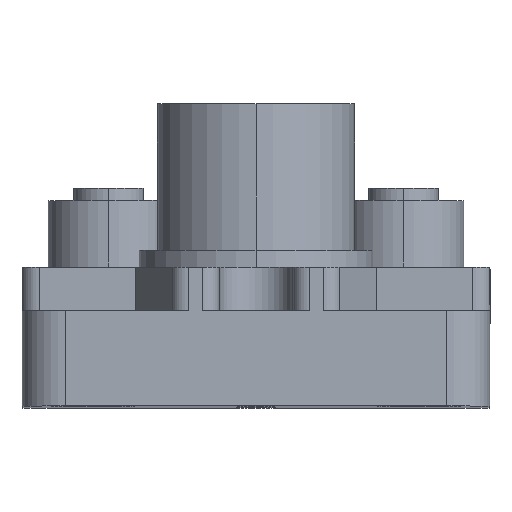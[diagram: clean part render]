
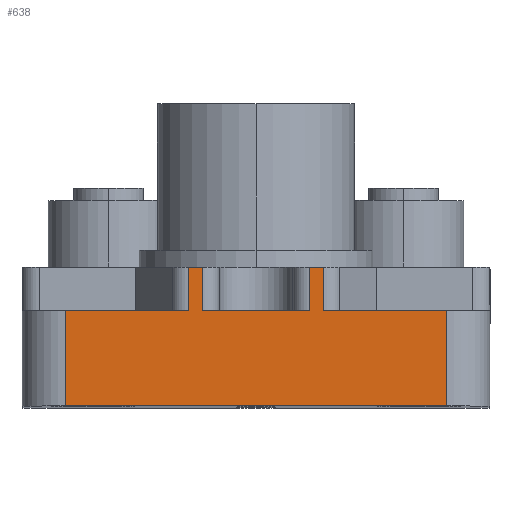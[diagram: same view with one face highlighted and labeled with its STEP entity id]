
A CAD part, top view. The second image highlights one B-rep face of the part: STEP entity #638.
In plain terms, the highlighted planar face has unit normal (0, 0, 1).
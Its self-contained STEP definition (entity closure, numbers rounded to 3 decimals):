
#63 = CARTESIAN_POINT ( 'NONE',  ( -27., -8., 76.25 ) ) ;
#353 = EDGE_CURVE ( 'NONE', #1783, #7075, #738, .T. ) ;
#490 = EDGE_LOOP ( 'NONE', ( #2377, #7534, #6629, #4829, #7357, #5057, #6020, #8266, #3265, #2564, #676, #3149 ) ) ;
#582 = CARTESIAN_POINT ( 'NONE',  ( 6.22, 8., 76.25 ) ) ;
#638 = ADVANCED_FACE ( 'NONE', ( #2258 ), #7860, .F. ) ;
#652 = DIRECTION ( 'NONE',  ( -1., 0., 0. ) ) ;
#676 = ORIENTED_EDGE ( 'NONE', *, *, #5689, .T. ) ;
#738 = LINE ( 'NONE', #5080, #7742 ) ;
#778 = EDGE_CURVE ( 'NONE', #5211, #3135, #7571, .T. ) ;
#796 = VERTEX_POINT ( 'NONE', #1071 ) ;
#967 = CARTESIAN_POINT ( 'NONE',  ( 22., -8., 76.25 ) ) ;
#996 = VECTOR ( 'NONE', #7120, 1000. ) ;
#1061 = DIRECTION ( 'NONE',  ( -1., 0., 0. ) ) ;
#1071 = CARTESIAN_POINT ( 'NONE',  ( 7.845, 3., 76.25 ) ) ;
#1098 = LINE ( 'NONE', #3257, #8092 ) ;
#1285 = VECTOR ( 'NONE', #8291, 1000. ) ;
#1557 = DIRECTION ( 'NONE',  ( 0., 0., -1. ) ) ;
#1594 = VECTOR ( 'NONE', #1061, 1000. ) ;
#1691 = DIRECTION ( 'NONE',  ( -1., 0., 0. ) ) ;
#1703 = CARTESIAN_POINT ( 'NONE',  ( 22., 8., 76.25 ) ) ;
#1783 = VERTEX_POINT ( 'NONE', #582 ) ;
#2035 = LINE ( 'NONE', #63, #8357 ) ;
#2255 = VERTEX_POINT ( 'NONE', #7716 ) ;
#2258 = FACE_OUTER_BOUND ( 'NONE', #490, .T. ) ;
#2377 = ORIENTED_EDGE ( 'NONE', *, *, #3880, .F. ) ;
#2514 = CARTESIAN_POINT ( 'NONE',  ( -27., 3., 76.25 ) ) ;
#2521 = DIRECTION ( 'NONE',  ( 0., 1., 0. ) ) ;
#2564 = ORIENTED_EDGE ( 'NONE', *, *, #6426, .T. ) ;
#2695 = CARTESIAN_POINT ( 'NONE',  ( -27., 8., 76.25 ) ) ;
#2758 = VERTEX_POINT ( 'NONE', #5083 ) ;
#2799 = DIRECTION ( 'NONE',  ( 0., -1., 0. ) ) ;
#3135 = VERTEX_POINT ( 'NONE', #8952 ) ;
#3149 = ORIENTED_EDGE ( 'NONE', *, *, #3205, .T. ) ;
#3171 = LINE ( 'NONE', #7998, #6007 ) ;
#3205 = EDGE_CURVE ( 'NONE', #796, #2758, #8264, .T. ) ;
#3257 = CARTESIAN_POINT ( 'NONE',  ( -22., 8., 76.25 ) ) ;
#3265 = ORIENTED_EDGE ( 'NONE', *, *, #6136, .T. ) ;
#3412 = EDGE_CURVE ( 'NONE', #5211, #8857, #4285, .T. ) ;
#3646 = VERTEX_POINT ( 'NONE', #967 ) ;
#3696 = VERTEX_POINT ( 'NONE', #3937 ) ;
#3880 = EDGE_CURVE ( 'NONE', #1783, #2758, #6194, .T. ) ;
#3927 = CARTESIAN_POINT ( 'NONE',  ( -22., -8., 76.25 ) ) ;
#3937 = CARTESIAN_POINT ( 'NONE',  ( 22., 3., 76.25 ) ) ;
#4062 = VERTEX_POINT ( 'NONE', #7311 ) ;
#4285 = LINE ( 'NONE', #4866, #6755 ) ;
#4388 = CARTESIAN_POINT ( 'NONE',  ( -27., 8., 76.25 ) ) ;
#4596 = DIRECTION ( 'NONE',  ( 0., -1., 0. ) ) ;
#4829 = ORIENTED_EDGE ( 'NONE', *, *, #5531, .T. ) ;
#4866 = CARTESIAN_POINT ( 'NONE',  ( -7.845, 3., 76.25 ) ) ;
#5035 = CARTESIAN_POINT ( 'NONE',  ( -6.22, 8., 76.25 ) ) ;
#5057 = ORIENTED_EDGE ( 'NONE', *, *, #3412, .T. ) ;
#5080 = CARTESIAN_POINT ( 'NONE',  ( 6.22, 8., 76.25 ) ) ;
#5083 = CARTESIAN_POINT ( 'NONE',  ( 7.845, 8., 76.25 ) ) ;
#5095 = CARTESIAN_POINT ( 'NONE',  ( -7.845, 3., 76.25 ) ) ;
#5185 = CARTESIAN_POINT ( 'NONE',  ( -7.845, 8., 76.25 ) ) ;
#5211 = VERTEX_POINT ( 'NONE', #5185 ) ;
#5287 = DIRECTION ( 'NONE',  ( 1., 0., 0. ) ) ;
#5333 = VERTEX_POINT ( 'NONE', #3927 ) ;
#5397 = DIRECTION ( 'NONE',  ( 0., 1., 0. ) ) ;
#5531 = EDGE_CURVE ( 'NONE', #2255, #3135, #6502, .T. ) ;
#5542 = DIRECTION ( 'NONE',  ( 1., 0., 0. ) ) ;
#5666 = DIRECTION ( 'NONE',  ( 0., -1., 0. ) ) ;
#5689 = EDGE_CURVE ( 'NONE', #3696, #796, #3171, .T. ) ;
#6007 = VECTOR ( 'NONE', #1691, 1000. ) ;
#6020 = ORIENTED_EDGE ( 'NONE', *, *, #8618, .T. ) ;
#6136 = EDGE_CURVE ( 'NONE', #5333, #3646, #2035, .T. ) ;
#6194 = LINE ( 'NONE', #2695, #1285 ) ;
#6295 = AXIS2_PLACEMENT_3D ( 'NONE', #4388, #1557, #7159 ) ;
#6426 = EDGE_CURVE ( 'NONE', #3646, #3696, #6712, .T. ) ;
#6502 = LINE ( 'NONE', #5035, #996 ) ;
#6627 = VECTOR ( 'NONE', #652, 1000. ) ;
#6629 = ORIENTED_EDGE ( 'NONE', *, *, #9108, .T. ) ;
#6712 = LINE ( 'NONE', #1703, #7930 ) ;
#6755 = VECTOR ( 'NONE', #2799, 1000. ) ;
#6945 = CARTESIAN_POINT ( 'NONE',  ( 4.22, 3., 76.25 ) ) ;
#7075 = VERTEX_POINT ( 'NONE', #8499 ) ;
#7120 = DIRECTION ( 'NONE',  ( 0., 1., 0. ) ) ;
#7159 = DIRECTION ( 'NONE',  ( -1., 0., 0. ) ) ;
#7190 = VECTOR ( 'NONE', #2521, 1000. ) ;
#7253 = EDGE_CURVE ( 'NONE', #4062, #5333, #1098, .T. ) ;
#7311 = CARTESIAN_POINT ( 'NONE',  ( -22., 3., 76.25 ) ) ;
#7357 = ORIENTED_EDGE ( 'NONE', *, *, #778, .F. ) ;
#7379 = LINE ( 'NONE', #2514, #1594 ) ;
#7534 = ORIENTED_EDGE ( 'NONE', *, *, #353, .T. ) ;
#7571 = LINE ( 'NONE', #8912, #8049 ) ;
#7716 = CARTESIAN_POINT ( 'NONE',  ( -6.22, 3., 76.25 ) ) ;
#7742 = VECTOR ( 'NONE', #5666, 1000. ) ;
#7860 = PLANE ( 'NONE',  #6295 ) ;
#7930 = VECTOR ( 'NONE', #5397, 1000. ) ;
#7998 = CARTESIAN_POINT ( 'NONE',  ( 27., 3., 76.25 ) ) ;
#8049 = VECTOR ( 'NONE', #5287, 1000. ) ;
#8092 = VECTOR ( 'NONE', #4596, 1000. ) ;
#8264 = LINE ( 'NONE', #8818, #7190 ) ;
#8266 = ORIENTED_EDGE ( 'NONE', *, *, #7253, .T. ) ;
#8291 = DIRECTION ( 'NONE',  ( 1., 0., 0. ) ) ;
#8357 = VECTOR ( 'NONE', #5542, 1000. ) ;
#8382 = LINE ( 'NONE', #6945, #6627 ) ;
#8499 = CARTESIAN_POINT ( 'NONE',  ( 6.22, 3., 76.25 ) ) ;
#8618 = EDGE_CURVE ( 'NONE', #8857, #4062, #7379, .T. ) ;
#8818 = CARTESIAN_POINT ( 'NONE',  ( 7.845, 8., 76.25 ) ) ;
#8857 = VERTEX_POINT ( 'NONE', #5095 ) ;
#8912 = CARTESIAN_POINT ( 'NONE',  ( -27., 8., 76.25 ) ) ;
#8952 = CARTESIAN_POINT ( 'NONE',  ( -6.22, 8., 76.25 ) ) ;
#9108 = EDGE_CURVE ( 'NONE', #7075, #2255, #8382, .T. ) ;
